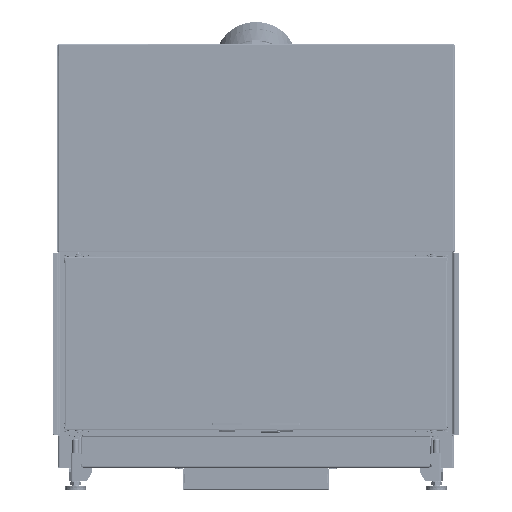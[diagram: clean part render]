
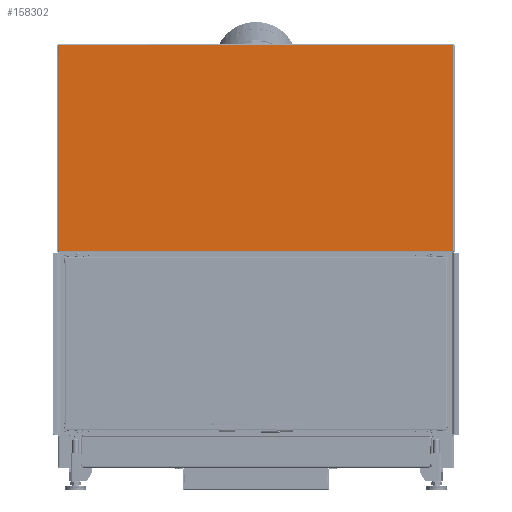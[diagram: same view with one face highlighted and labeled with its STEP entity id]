
A CAD part, front view. The second image highlights one B-rep face of the part: STEP entity #158302.
In plain terms, the highlighted planar face has unit normal (0, -1, 0).
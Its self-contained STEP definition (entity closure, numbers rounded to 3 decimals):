
#3475=LINE('',#241512,#19275);
#3480=LINE('',#241600,#19280);
#3488=LINE('',#241819,#19288);
#3489=LINE('',#241821,#19289);
#3490=LINE('',#241825,#19290);
#3493=LINE('',#241831,#19293);
#19275=VECTOR('',#188619,10.);
#19280=VECTOR('',#188636,10.);
#19288=VECTOR('',#188658,10.);
#19289=VECTOR('',#188661,10.);
#19290=VECTOR('',#188668,10.);
#19293=VECTOR('',#188677,10.);
#33293=PLANE('',#168314);
#42082=FACE_OUTER_BOUND('',#50803,.T.);
#50803=EDGE_LOOP('',(#113032,#113033,#113034,#113035,#113036,#113037));
#69132=VERTEX_POINT('',#241493);
#69133=VERTEX_POINT('',#241504);
#69139=VERTEX_POINT('',#241593);
#69141=VERTEX_POINT('',#241599);
#69150=VERTEX_POINT('',#241810);
#69151=VERTEX_POINT('',#241817);
#85515=EDGE_CURVE('',#69133,#69132,#3475,.T.);
#85527=EDGE_CURVE('',#69141,#69132,#3480,.T.);
#85551=EDGE_CURVE('',#69150,#69151,#3488,.T.);
#85552=EDGE_CURVE('',#69139,#69141,#3489,.T.);
#85554=EDGE_CURVE('',#69151,#69139,#3490,.T.);
#85558=EDGE_CURVE('',#69133,#69150,#3493,.T.);
#113032=ORIENTED_EDGE('',*,*,#85552,.T.);
#113033=ORIENTED_EDGE('',*,*,#85527,.T.);
#113034=ORIENTED_EDGE('',*,*,#85515,.F.);
#113035=ORIENTED_EDGE('',*,*,#85558,.T.);
#113036=ORIENTED_EDGE('',*,*,#85551,.T.);
#113037=ORIENTED_EDGE('',*,*,#85554,.T.);
#158302=ADVANCED_FACE('',(#42082),#33293,.T.);
#168314=AXIS2_PLACEMENT_3D('',#241830,#188675,#188676);
#188619=DIRECTION('',(1.,0.,0.));
#188636=DIRECTION('',(0.,0.,1.));
#188658=DIRECTION('',(0.,0.,-1.));
#188661=DIRECTION('',(0.,0.,1.));
#188668=DIRECTION('',(1.,0.,0.));
#188675=DIRECTION('center_axis',(0.,-1.,0.));
#188676=DIRECTION('ref_axis',(1.,0.,0.));
#188677=DIRECTION('',(0.,0.,-1.));
#241493=CARTESIAN_POINT('',(485.75,-328.496,1042.25));
#241504=CARTESIAN_POINT('',(-485.75,-328.496,1042.25));
#241512=CARTESIAN_POINT('',(0.,-328.496,1042.25));
#241593=CARTESIAN_POINT('',(485.75,-328.496,535.25));
#241599=CARTESIAN_POINT('',(485.75,-328.496,1041.57));
#241600=CARTESIAN_POINT('',(485.75,-328.496,683.846));
#241810=CARTESIAN_POINT('',(-485.75,-328.496,1041.57));
#241817=CARTESIAN_POINT('',(-485.75,-328.496,535.25));
#241819=CARTESIAN_POINT('',(-485.75,-328.496,937.346));
#241821=CARTESIAN_POINT('',(485.75,-328.496,683.846));
#241825=CARTESIAN_POINT('',(244.25,-328.496,535.25));
#241830=CARTESIAN_POINT('Origin',(0.,-328.496,
832.441));
#241831=CARTESIAN_POINT('',(-485.75,-328.496,937.346));
